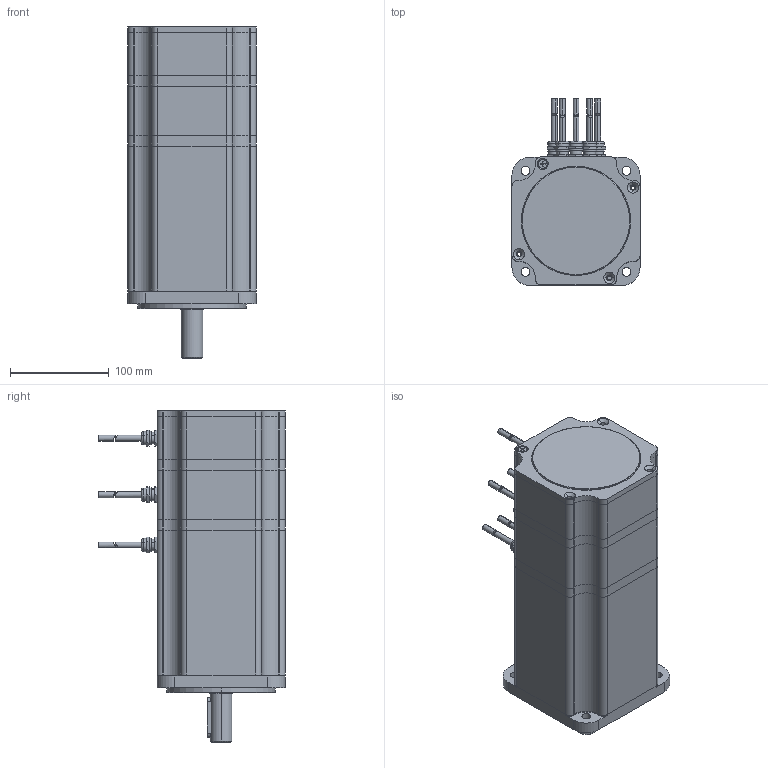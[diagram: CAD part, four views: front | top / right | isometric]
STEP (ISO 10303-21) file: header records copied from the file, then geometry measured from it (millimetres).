
FILE_DESCRIPTION (( 'STEP AP203' ), '1' );
FILE_NAME ('9.7585.STEP', '2022-03-01T06:01:46', ( '' ), ( '' ), 'SwSTEP 2.0', 'SolidWorks 2018', '' );
FILE_SCHEMA (( 'CONFIG_CONTROL_DESIGN' ));
Length unit declared in the file: millimetre
Products named in the file (1): 9.7585
Bounding box: 130 x 189.12 x 337 mm (x, y, z)
Volume: 1400992.6 mm3; surface area: 525086.8 mm2
Topology: 33 solids, 33 shells, 1644 faces, 4305 edges, 2776 vertices
Faces by surface type: cylinder 797, plane 529, cone 184, torus 96, sphere 26, bspline 12
Entity records: 53357 total; most frequent: CARTESIAN_POINT 11587, DIRECTION 9286, ORIENTED_EDGE 8418, EDGE_CURVE 4209, AXIS2_PLACEMENT_3D 3689, VERTEX_POINT 2724, CIRCLE 2056, EDGE_LOOP 1947
